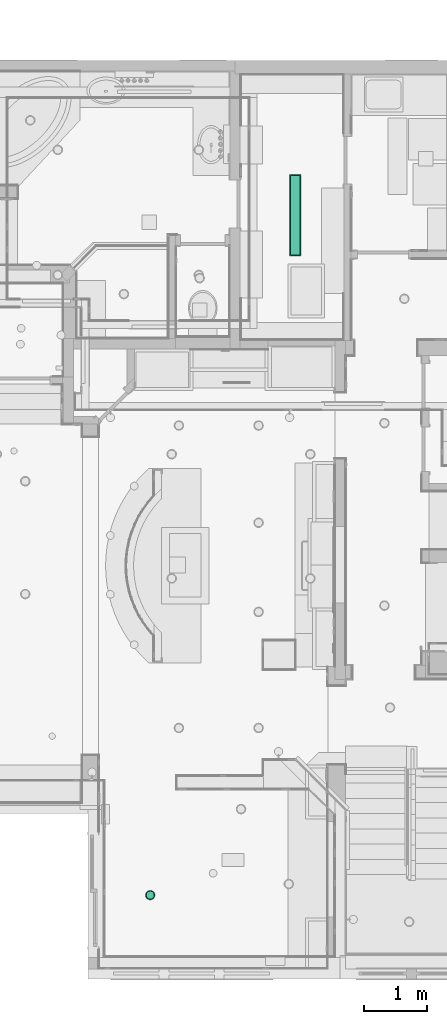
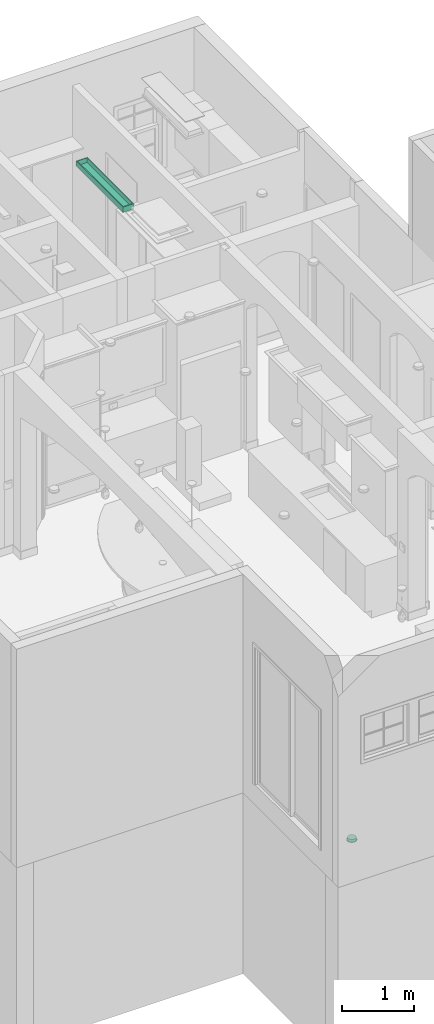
# One storey, part 37 of 81: 2 flow terminals.
"""IFC2X3 building model written with IfcOpenShell, lengths in feet."""

from ifc_helpers import new_model, entity, si_unit, converted_unit, derived_unit, direction, frame, origin, origin_2d_with_axis, place, context, subcontext, project, spatial, polyline, rectangle, outline, extrude, faceted_brep, source, transform, mapped, material, material_list, type_object, type_shapes, element, save


model = new_model("IFC2X3")

# Units and contexts
model_context = context("Model", 3, precision=0.0001, world=origin(), true_north=direction((6.12303176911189e-17, 1.0)))
body_context = subcontext(model_context, "Body", "Model", "MODEL_VIEW")
ifc_project = project(units=[converted_unit("LENGTHUNIT", "FOOT", entity("IfcRatioMeasure", 0.3048), si_unit("LENGTHUNIT", "METRE"), dimensions=[1, 0, 0, 0, 0, 0, 0]), converted_unit("AREAUNIT", "SQUARE FOOT", entity("IfcRatioMeasure", 0.09290304), si_unit("AREAUNIT", "SQUARE_METRE"), dimensions=[2, 0, 0, 0, 0, 0, 0]), converted_unit("VOLUMEUNIT", "CUBIC FOOT", entity("IfcRatioMeasure", 0.028316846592), si_unit("VOLUMEUNIT", "CUBIC_METRE"), dimensions=[3, 0, 0, 0, 0, 0, 0]), converted_unit("PLANEANGLEUNIT", "DEGREE", entity("IfcRatioMeasure", 0.0174532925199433), si_unit("PLANEANGLEUNIT", "RADIAN"), dimensions=[0, 0, 0, 0, 0, 0, 0]), si_unit("MASSUNIT", "GRAM", prefix="KILO"), derived_unit("MASSDENSITYUNIT", [(si_unit("MASSUNIT", "GRAM", prefix="KILO"), 1), (si_unit("LENGTHUNIT", "METRE"), -3)]), derived_unit("MOMENTOFINERTIAUNIT", [(si_unit("LENGTHUNIT", "METRE"), 4)]), si_unit("TIMEUNIT", "SECOND"), si_unit("FREQUENCYUNIT", "HERTZ"), si_unit("THERMODYNAMICTEMPERATUREUNIT", "DEGREE_CELSIUS"), derived_unit("THERMALTRANSMITTANCEUNIT", [(si_unit("MASSUNIT", "GRAM", prefix="KILO"), 1), (si_unit("THERMODYNAMICTEMPERATUREUNIT", "KELVIN"), -1), (si_unit("TIMEUNIT", "SECOND"), -3)]), derived_unit("VOLUMETRICFLOWRATEUNIT", [(si_unit("LENGTHUNIT", "METRE"), 3), (si_unit("TIMEUNIT", "SECOND"), -1)]), si_unit("ELECTRICCURRENTUNIT", "AMPERE"), si_unit("ELECTRICVOLTAGEUNIT", "VOLT"), si_unit("POWERUNIT", "WATT"), si_unit("FORCEUNIT", "NEWTON"), si_unit("ILLUMINANCEUNIT", "LUX"), si_unit("LUMINOUSFLUXUNIT", "LUMEN"), si_unit("LUMINOUSINTENSITYUNIT", "CANDELA"), derived_unit("USERDEFINED", [(si_unit("MASSUNIT", "GRAM", prefix="KILO"), -1), (si_unit("LENGTHUNIT", "METRE"), -2), (si_unit("TIMEUNIT", "SECOND"), 3), (si_unit("LUMINOUSFLUXUNIT", "LUMEN"), 1)]), derived_unit("LINEARVELOCITYUNIT", [(si_unit("LENGTHUNIT", "METRE"), 1), (si_unit("TIMEUNIT", "SECOND"), -1)]), si_unit("PRESSUREUNIT", "PASCAL"), derived_unit("USERDEFINED", [(si_unit("LENGTHUNIT", "METRE"), -2), (si_unit("MASSUNIT", "GRAM", prefix="KILO"), 1), (si_unit("TIMEUNIT", "SECOND"), -2)]), derived_unit("LINEARFORCEUNIT", [(si_unit("MASSUNIT", "GRAM", prefix="KILO"), 1), (si_unit("LENGTHUNIT", "METRE"), 1), (si_unit("TIMEUNIT", "SECOND"), -2), (si_unit("LENGTHUNIT", "METRE"), -1)]), derived_unit("PLANARFORCEUNIT", [(si_unit("MASSUNIT", "GRAM", prefix="KILO"), 1), (si_unit("LENGTHUNIT", "METRE"), 1), (si_unit("TIMEUNIT", "SECOND"), -2), (si_unit("LENGTHUNIT", "METRE"), -2)])], contexts=[model_context])

# Site, building, storey
site_placement = place(None, origin())
site = spatial("IfcSite", under=ifc_project, at=site_placement, Name="Default", CompositionType="ELEMENT")
building_placement = place(site_placement, origin())
building = spatial("IfcBuilding", under=site, at=building_placement, CompositionType="ELEMENT")
storey_placement = place(building_placement, origin())
storey = spatial("IfcBuildingStorey", under=building, at=storey_placement, Name="First floor", CompositionType="ELEMENT", Elevation=0.0)

# Flow terminals
ifc_material_1 = material(Name="Default New Material")
ifc_material_2 = material(Name="Glass, White, High Luminance")
ifc_material_list_1 = material_list([ifc_material_1, ifc_material_2])
ifc_material_list_2 = material_list([ifc_material_1, ifc_material_2])
light_fixture_type_1 = type_object("IfcLightFixtureType", Name="M_Recessed Lamp - Round - LED:Light 2", PredefinedType="NOTDEFINED", material=ifc_material_list_2)
shared_shape_1 = source(origin(), body_context, "Body", "Brep", [
    faceted_brep([(-0.124999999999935, 0.216506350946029, 0.0208333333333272), (-0.176776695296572, 0.176776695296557, 0.0208333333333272), (-0.0833333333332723, 0.144337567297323, 0.0208333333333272), (-0.0431365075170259, 0.160987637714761, 0.0208333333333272), (-0.0647047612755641, 0.241481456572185, 0.0208333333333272), (-0.117851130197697, 0.117851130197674, 0.0208333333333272), (-0.216506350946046, 0.12499999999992, 0.0208333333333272), (-0.144337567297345, 0.0833333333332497, 0.0208333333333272), (-0.160987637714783, 0.0431365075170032, 0.0208333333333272), (-0.241481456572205, 0.0647047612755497, 0.0208333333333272), (-0.166666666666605, 0.0, 0.0208333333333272), (-0.249999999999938, 0.0, 0.0208333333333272), (-0.160987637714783, -0.0431365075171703, 0.0208333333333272), (-0.241481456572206, -0.0647047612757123, 0.0208333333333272), (-0.144337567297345, -0.0833333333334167, 0.0208333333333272), (-0.216506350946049, -0.125000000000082, 0.0208333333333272), (-0.117851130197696, -0.117851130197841, 0.0208333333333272), (-0.176776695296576, -0.176776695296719, 0.0208333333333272), (-0.0833333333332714, -0.14433756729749, 0.0208333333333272), (-0.12499999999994, -0.216506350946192, 0.0208333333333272), (-0.0431365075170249, -0.160987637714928, 0.0208333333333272), (-0.0647047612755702, -0.24148145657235, 0.0208333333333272), (0.0, -0.16666666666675, 0.0208333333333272), (0.0, -0.250000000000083, 0.0208333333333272), (0.0431365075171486, -0.160987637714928, 0.0208333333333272), (0.0647047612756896, -0.241481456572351, 0.0208333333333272), (0.0833333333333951, -0.144337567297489, 0.0208333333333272), (0.12500000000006, -0.216506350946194, 0.0208333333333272), (0.11785113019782, -0.117851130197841, 0.0208333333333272), (0.176776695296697, -0.176776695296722, 0.0208333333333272), (0.144337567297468, -0.0833333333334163, 0.0208333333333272), (0.21650635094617, -0.125000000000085, 0.0208333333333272), (0.241481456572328, -0.0647047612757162, 0.0208333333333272), (0.160987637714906, -0.0431365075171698, 0.0208333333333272), (0.250000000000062, 0.0, 0.0208333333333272), (0.166666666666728, 0.0, 0.0208333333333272), (0.241481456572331, 0.06470476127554, 0.0208333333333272), (0.160987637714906, 0.0431365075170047, 0.0208333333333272), (0.216506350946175, 0.124999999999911, 0.0208333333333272), (0.144337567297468, 0.0833333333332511, 0.0208333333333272), (0.176776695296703, 0.176776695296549, 0.0208333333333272), (0.117851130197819, 0.117851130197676, 0.0208333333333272), (0.125000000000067, 0.216506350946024, 0.0208333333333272), (0.0833333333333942, 0.144337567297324, 0.0208333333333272), (0.0647047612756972, 0.241481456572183, 0.0208333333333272), (0.0431365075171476, 0.160987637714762, 0.0208333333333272), (0.0, 0.249999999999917, 0.0208333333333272), (0.0, 0.166666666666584, 0.0208333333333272), (-0.12499999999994, -0.216506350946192, 0.0), (-0.176776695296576, -0.176776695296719, 0.0), (-0.0833333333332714, -0.14433756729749, 0.0), (-0.0431365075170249, -0.160987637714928, 0.0), (-0.0647047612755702, -0.24148145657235, 0.0), (-0.117851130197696, -0.117851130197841, 0.0), (-0.216506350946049, -0.125000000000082, 0.0), (-0.144337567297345, -0.0833333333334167, 0.0), (-0.160987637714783, -0.0431365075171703, 0.0), (-0.241481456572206, -0.0647047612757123, 0.0), (-0.166666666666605, 0.0, 0.0), (-0.249999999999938, 0.0, 0.0), (-0.160987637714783, 0.0431365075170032, 0.0), (-0.241481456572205, 0.0647047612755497, 0.0), (-0.144337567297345, 0.0833333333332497, 0.0), (-0.216506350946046, 0.12499999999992, 0.0), (-0.117851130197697, 0.117851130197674, 0.0), (-0.176776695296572, 0.176776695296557, 0.0), (-0.0833333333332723, 0.144337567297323, 0.0), (-0.124999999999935, 0.216506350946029, 0.0), (-0.0431365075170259, 0.160987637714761, 0.0), (-0.0647047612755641, 0.241481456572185, 0.0), (0.0, 0.166666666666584, 0.0), (0.0, 0.249999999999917, 0.0), (0.0431365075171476, 0.160987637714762, 0.0), (0.0647047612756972, 0.241481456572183, 0.0), (0.0833333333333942, 0.144337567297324, 0.0), (0.125000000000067, 0.216506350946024, 0.0), (0.117851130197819, 0.117851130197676, 0.0), (0.176776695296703, 0.176776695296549, 0.0), (0.144337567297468, 0.0833333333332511, 0.0), (0.216506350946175, 0.124999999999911, 0.0), (0.241481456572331, 0.06470476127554, 0.0), (0.160987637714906, 0.0431365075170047, 0.0), (0.250000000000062, 0.0, 0.0), (0.166666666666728, 0.0, 0.0), (0.241481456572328, -0.0647047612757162, 0.0), (0.160987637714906, -0.0431365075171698, 0.0), (0.21650635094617, -0.125000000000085, 0.0), (0.144337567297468, -0.0833333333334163, 0.0), (0.176776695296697, -0.176776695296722, 0.0), (0.11785113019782, -0.117851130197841, 0.0), (0.12500000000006, -0.216506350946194, 0.0), (0.0833333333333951, -0.144337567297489, 0.0), (0.0647047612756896, -0.241481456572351, 0.0), (0.0431365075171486, -0.160987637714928, 0.0), (0.0, -0.250000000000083, 0.0), (0.0, -0.16666666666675, 0.0)], [[[0, 1, 2]], [[0, 2, 3]], [[3, 4, 0]], [[2, 1, 5]], [[6, 5, 1]], [[7, 5, 6]], [[8, 7, 6]], [[8, 6, 9]], [[8, 9, 10]], [[10, 9, 11]], [[12, 10, 11]], [[12, 11, 13]], [[14, 12, 13]], [[14, 13, 15]], [[16, 14, 15]], [[15, 17, 16]], [[17, 18, 16]], [[18, 17, 19]], [[18, 19, 20]], [[21, 20, 19]], [[20, 21, 22]], [[22, 21, 23]], [[23, 24, 22]], [[24, 23, 25]], [[24, 25, 26]], [[27, 26, 25]], [[27, 28, 26]], [[27, 29, 28]], [[30, 28, 29]], [[31, 30, 29]], [[32, 30, 31]], [[33, 30, 32]], [[33, 32, 34]], [[34, 35, 33]], [[36, 35, 34]], [[36, 37, 35]], [[37, 36, 38]], [[39, 37, 38]], [[39, 38, 40]], [[39, 40, 41]], [[40, 42, 41]], [[41, 42, 43]], [[43, 42, 44]], [[44, 45, 43]], [[46, 45, 44]], [[4, 47, 46]], [[45, 46, 47]], [[4, 3, 47]], [[48, 49, 50]], [[48, 50, 51]], [[51, 52, 48]], [[50, 49, 53]], [[54, 53, 49]], [[55, 53, 54]], [[56, 55, 54]], [[56, 54, 57]], [[56, 57, 58]], [[58, 57, 59]], [[60, 58, 59]], [[60, 59, 61]], [[62, 60, 61]], [[62, 61, 63]], [[64, 62, 63]], [[63, 65, 64]], [[65, 66, 64]], [[66, 65, 67]], [[66, 67, 68]], [[69, 68, 67]], [[68, 69, 70]], [[70, 69, 71]], [[71, 72, 70]], [[72, 71, 73]], [[72, 73, 74]], [[75, 74, 73]], [[75, 76, 74]], [[75, 77, 76]], [[78, 76, 77]], [[79, 78, 77]], [[80, 78, 79]], [[81, 78, 80]], [[81, 80, 82]], [[82, 83, 81]], [[84, 83, 82]], [[84, 85, 83]], [[85, 84, 86]], [[87, 85, 86]], [[87, 86, 88]], [[87, 88, 89]], [[88, 90, 89]], [[89, 90, 91]], [[91, 90, 92]], [[92, 93, 91]], [[94, 93, 92]], [[52, 95, 94]], [[93, 94, 95]], [[52, 51, 95]], [[10, 58, 60, 8]], [[8, 60, 62, 7]], [[2, 5, 64, 66]], [[62, 64, 5, 7]], [[3, 2, 66, 68]], [[70, 47, 3, 68]], [[45, 72, 74, 43]], [[43, 74, 76, 41]], [[37, 39, 78, 81]], [[76, 78, 39, 41]], [[35, 37, 81, 83]], [[45, 47, 70, 72]], [[35, 83, 85, 33]], [[33, 85, 87, 30]], [[26, 28, 89, 91]], [[87, 89, 28, 30]], [[24, 26, 91, 93]], [[95, 22, 24, 93]], [[20, 51, 50, 18]], [[18, 50, 53, 16]], [[12, 14, 55, 56]], [[53, 55, 14, 16]], [[10, 12, 56, 58]], [[20, 22, 95, 51]], [[57, 13, 11, 59]], [[54, 15, 13, 57]], [[19, 17, 49, 48]], [[54, 49, 17, 15]], [[21, 19, 48, 52]], [[23, 21, 52, 94]], [[92, 25, 23, 94]], [[90, 27, 25, 92]], [[31, 29, 88, 86]], [[90, 88, 29, 27]], [[32, 31, 86, 84]], [[34, 32, 84, 82]], [[80, 36, 34, 82]], [[79, 38, 36, 80]], [[42, 40, 77, 75]], [[79, 77, 40, 38]], [[44, 42, 75, 73]], [[46, 44, 73, 71]], [[69, 4, 46, 71]], [[67, 0, 4, 69]], [[6, 1, 65, 63]], [[67, 65, 1, 0]], [[9, 6, 63, 61]], [[11, 9, 61, 59]]]),
    faceted_brep([(0.0431365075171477, -0.160987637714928, 0.0208333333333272), (0.0833333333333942, -0.14433756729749, 0.0208333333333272), (0.117851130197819, -0.117851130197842, 0.0208333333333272), (0.144337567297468, -0.0833333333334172, 0.0208333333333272), (0.160987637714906, -0.0431365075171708, 0.0208333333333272), (0.166666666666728, 0.0, 0.0208333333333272), (0.160987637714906, 0.0431365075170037, 0.0208333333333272), (0.144337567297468, 0.0833333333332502, 0.0208333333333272), (0.11785113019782, 0.117851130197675, 0.0208333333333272), (0.0833333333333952, 0.144337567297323, 0.0208333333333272), (0.0431365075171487, 0.160987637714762, 0.0208333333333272), (0.0, 0.166666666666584, 0.0208333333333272), (-0.0431365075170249, 0.160987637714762, 0.0208333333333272), (-0.0833333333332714, 0.144337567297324, 0.0208333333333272), (-0.117851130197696, 0.117851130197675, 0.0208333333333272), (-0.144337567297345, 0.0833333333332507, 0.0208333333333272), (-0.160987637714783, 0.0431365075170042, 0.0208333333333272), (-0.166666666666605, 0.0, 0.0208333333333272), (-0.160987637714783, -0.0431365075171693, 0.0208333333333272), (-0.144337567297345, -0.0833333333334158, 0.0208333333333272), (-0.117851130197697, -0.117851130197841, 0.0208333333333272), (-0.0833333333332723, -0.144337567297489, 0.0208333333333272), (-0.0431365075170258, -0.160987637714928, 0.0208333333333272), (0.0, -0.16666666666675, 0.0208333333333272), (0.0431365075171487, 0.160987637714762, 0.0), (0.0833333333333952, 0.144337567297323, 0.0), (0.11785113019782, 0.117851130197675, 0.0), (0.144337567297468, 0.0833333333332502, 0.0), (0.160987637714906, 0.0431365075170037, 0.0), (0.166666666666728, 0.0, 0.0), (0.160987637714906, -0.0431365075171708, 0.0), (0.144337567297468, -0.0833333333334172, 0.0), (0.117851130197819, -0.117851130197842, 0.0), (0.0833333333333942, -0.14433756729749, 0.0), (0.0431365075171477, -0.160987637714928, 0.0), (0.0, -0.16666666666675, 0.0), (-0.0431365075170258, -0.160987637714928, 0.0), (-0.0833333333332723, -0.144337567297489, 0.0), (-0.117851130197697, -0.117851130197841, 0.0), (-0.144337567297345, -0.0833333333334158, 0.0), (-0.160987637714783, -0.0431365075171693, 0.0), (-0.166666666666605, 0.0, 0.0), (-0.160987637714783, 0.0431365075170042, 0.0), (-0.144337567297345, 0.0833333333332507, 0.0), (-0.117851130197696, 0.117851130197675, 0.0), (-0.0833333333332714, 0.144337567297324, 0.0), (-0.0431365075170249, 0.160987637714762, 0.0), (0.0, 0.166666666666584, 0.0)], [[[0, 1, 2, 3, 4, 5, 6, 7, 8, 9, 10, 11, 12, 13, 14, 15, 16, 17, 18, 19, 20, 21, 22, 23]], [[24, 25, 26, 27, 28, 29, 30, 31, 32, 33, 34, 35, 36, 37, 38, 39, 40, 41, 42, 43, 44, 45, 46, 47]], [[40, 18, 17, 41]], [[39, 19, 18, 40]], [[21, 20, 38, 37]], [[39, 38, 20, 19]], [[22, 21, 37, 36]], [[23, 22, 36, 35]], [[34, 0, 23, 35]], [[33, 1, 0, 34]], [[3, 2, 32, 31]], [[33, 32, 2, 1]], [[4, 3, 31, 30]], [[5, 4, 30, 29]], [[28, 6, 5, 29]], [[27, 7, 6, 28]], [[9, 8, 26, 25]], [[27, 26, 8, 7]], [[10, 9, 25, 24]], [[11, 10, 24, 47]], [[46, 12, 11, 47]], [[45, 13, 12, 46]], [[15, 14, 44, 43]], [[45, 44, 14, 13]], [[16, 15, 43, 42]], [[17, 16, 42, 41]]]),
    faceted_brep([(0.0, -0.16666666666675, -0.104166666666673), (0.0431365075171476, -0.160987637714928, -0.104166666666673), (0.0833333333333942, -0.14433756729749, -0.104166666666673), (0.117851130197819, -0.117851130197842, -0.104166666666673), (0.144337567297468, -0.0833333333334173, -0.104166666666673), (0.160987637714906, -0.0431365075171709, -0.104166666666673), (0.166666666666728, 0.0, -0.104166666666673), (0.160987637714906, 0.0431365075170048, -0.104166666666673), (0.144337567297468, 0.0833333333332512, -0.104166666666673), (0.117851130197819, 0.117851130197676, -0.104166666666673), (0.0833333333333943, 0.144337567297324, -0.104166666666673), (0.0431365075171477, 0.160987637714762, -0.104166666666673), (0.0, 0.166666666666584, -0.104166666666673), (-0.0431365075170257, 0.160987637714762, -0.104166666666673), (-0.0833333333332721, 0.144337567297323, -0.104166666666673), (-0.117851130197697, 0.117851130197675, -0.104166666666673), (-0.144337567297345, 0.0833333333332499, -0.104166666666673), (-0.160987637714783, 0.0431365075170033, -0.104166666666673), (-0.166666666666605, 0.0, -0.104166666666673), (-0.160987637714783, -0.0431365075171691, -0.104166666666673), (-0.144337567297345, -0.0833333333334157, -0.104166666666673), (-0.117851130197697, -0.11785113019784, -0.104166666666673), (-0.0833333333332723, -0.144337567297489, -0.104166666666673), (-0.0431365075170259, -0.160987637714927, -0.104166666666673), (0.0, 0.20833333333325, -0.125000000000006), (0.0539206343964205, 0.201234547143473, -0.125000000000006), (0.104166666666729, 0.180421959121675, -0.125000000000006), (0.147313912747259, 0.147313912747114, -0.125000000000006), (0.18042195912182, 0.104166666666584, -0.125000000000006), (0.201234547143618, 0.0539206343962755, -0.125000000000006), (0.208333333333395, 0.0, -0.125000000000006), (0.201234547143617, -0.0539206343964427, -0.125000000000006), (0.180421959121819, -0.104166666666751, -0.125000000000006), (0.147313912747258, -0.147313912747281, -0.125000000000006), (0.104166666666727, -0.180421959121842, -0.125000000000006), (0.0539206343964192, -0.201234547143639, -0.125000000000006), (0.0, -0.208333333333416, -0.125000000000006), (-0.0539206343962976, -0.201234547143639, -0.125000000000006), (-0.104166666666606, -0.180421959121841, -0.125000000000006), (-0.147313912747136, -0.14731391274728, -0.125000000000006), (-0.180421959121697, -0.104166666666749, -0.125000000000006), (-0.201234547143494, -0.0539206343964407, -0.125000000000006), (-0.208333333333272, 0.0, -0.125000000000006), (-0.201234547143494, 0.0539206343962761, -0.125000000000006), (-0.180421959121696, 0.104166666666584, -0.125000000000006), (-0.147313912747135, 0.147313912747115, -0.125000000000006), (-0.104166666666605, 0.180421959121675, -0.125000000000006), (-0.0539206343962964, 0.201234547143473, -0.125000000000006), (-0.201234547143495, -0.0539206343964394, -0.104166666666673), (-0.201234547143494, -0.0539206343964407, 0.0), (-0.208333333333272, 0.0, 0.0), (-0.208333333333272, 0.0, -0.104166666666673), (-0.180421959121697, -0.104166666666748, -0.104166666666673), (-0.180421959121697, -0.104166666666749, 0.0), (-0.104166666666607, -0.18042195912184, -0.104166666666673), (-0.104166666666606, -0.180421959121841, 0.0), (-0.147313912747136, -0.14731391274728, 0.0), (-0.147313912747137, -0.147313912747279, -0.104166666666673), (-0.0539206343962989, -0.201234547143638, -0.104166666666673), (-0.0539206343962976, -0.201234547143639, 0.0), (0.0, -0.208333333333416, -0.104166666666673), (0.0, -0.208333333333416, 0.0), (0.053920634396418, -0.201234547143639, -0.104166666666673), (0.0539206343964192, -0.201234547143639, 0.0), (0.104166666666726, -0.180421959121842, -0.104166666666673), (0.104166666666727, -0.180421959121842, 0.0), (0.180421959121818, -0.104166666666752, -0.104166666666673), (0.180421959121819, -0.104166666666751, 0.0), (0.147313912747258, -0.147313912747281, 0.0), (0.147313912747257, -0.147313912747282, -0.104166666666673), (0.201234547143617, -0.0539206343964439, -0.104166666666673), (0.201234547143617, -0.0539206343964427, 0.0), (0.208333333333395, 0.0, -0.104166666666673), (0.208333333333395, 0.0, 0.0), (0.201234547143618, 0.0539206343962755, -0.104166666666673), (0.201234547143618, 0.0539206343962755, 0.0), (0.18042195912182, 0.104166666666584, -0.104166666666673), (0.18042195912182, 0.104166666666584, 0.0), (0.104166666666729, 0.180421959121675, -0.104166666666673), (0.104166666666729, 0.180421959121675, 0.0), (0.147313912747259, 0.147313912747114, 0.0), (0.147313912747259, 0.147313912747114, -0.104166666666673), (0.0539206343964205, 0.201234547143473, -0.104166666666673), (0.0539206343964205, 0.201234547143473, 0.0), (0.0, 0.20833333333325, -0.104166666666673), (0.0, 0.20833333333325, 0.0), (-0.0539206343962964, 0.201234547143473, -0.104166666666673), (-0.0539206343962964, 0.201234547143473, 0.0), (-0.104166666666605, 0.180421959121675, -0.104166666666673), (-0.104166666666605, 0.180421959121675, 0.0), (-0.180421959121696, 0.104166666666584, -0.104166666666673), (-0.180421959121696, 0.104166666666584, 0.0), (-0.147313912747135, 0.147313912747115, 0.0), (-0.147313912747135, 0.147313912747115, -0.104166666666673), (-0.201234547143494, 0.0539206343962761, -0.104166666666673), (-0.201234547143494, 0.0539206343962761, 0.0), (-0.0833333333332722, 0.144337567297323, 0.0), (-0.0431365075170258, 0.160987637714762, 0.0), (-0.117851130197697, 0.117851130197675, 0.0), (-0.144337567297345, 0.0833333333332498, 0.0), (-0.160987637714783, 0.0431365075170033, 0.0), (-0.166666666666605, 0.0, 0.0), (-0.160987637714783, -0.0431365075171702, 0.0), (-0.144337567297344, -0.0833333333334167, 0.0), (-0.117851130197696, -0.117851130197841, 0.0), (-0.0833333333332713, -0.14433756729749, 0.0), (-0.0431365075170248, -0.160987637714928, 0.0), (0.0, -0.16666666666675, 0.0), (0.0431365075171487, -0.160987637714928, 0.0), (0.0833333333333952, -0.144337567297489, 0.0), (0.11785113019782, -0.117851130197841, 0.0), (0.144337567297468, -0.0833333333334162, 0.0), (0.160987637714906, -0.0431365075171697, 0.0), (0.166666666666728, 0.0, 0.0), (0.160987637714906, 0.0431365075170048, 0.0), (0.144337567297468, 0.0833333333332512, 0.0), (0.117851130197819, 0.117851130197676, 0.0), (0.0833333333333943, 0.144337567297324, 0.0), (0.0431365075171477, 0.160987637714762, 0.0), (0.0, 0.166666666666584, 0.0)], [[[0, 1, 2, 3, 4, 5, 6, 7, 8, 9, 10, 11, 12, 13, 14, 15, 16, 17, 18, 19, 20, 21, 22, 23]], [[24, 25, 26, 27, 28, 29, 30, 31, 32, 33, 34, 35, 36, 37, 38, 39, 40, 41, 42, 43, 44, 45, 46, 47]], [[41, 48, 49, 50, 51, 42]], [[40, 52, 53, 49, 48, 41]], [[54, 55, 56, 57, 39, 38]], [[40, 39, 57, 56, 53, 52]], [[58, 59, 55, 54, 38, 37]], [[60, 61, 59, 58, 37, 36]], [[35, 62, 63, 61, 60, 36]], [[34, 64, 65, 63, 62, 35]], [[66, 67, 68, 69, 33, 32]], [[34, 33, 69, 68, 65, 64]], [[70, 71, 67, 66, 32, 31]], [[72, 73, 71, 70, 31, 30]], [[29, 74, 75, 73, 72, 30]], [[28, 76, 77, 75, 74, 29]], [[78, 79, 80, 81, 27, 26]], [[28, 27, 81, 80, 77, 76]], [[82, 83, 79, 78, 26, 25]], [[84, 85, 83, 82, 25, 24]], [[47, 86, 87, 85, 84, 24]], [[46, 88, 89, 87, 86, 47]], [[90, 91, 92, 93, 45, 44]], [[46, 45, 93, 92, 89, 88]], [[94, 95, 91, 90, 44, 43]], [[51, 50, 95, 94, 43, 42]], [[89, 92, 96]], [[89, 96, 97]], [[97, 87, 89]], [[96, 92, 98]], [[91, 98, 92]], [[99, 98, 91]], [[100, 99, 91]], [[100, 91, 95]], [[100, 95, 101]], [[101, 95, 50]], [[102, 101, 50]], [[102, 50, 49]], [[103, 102, 49]], [[103, 49, 53]], [[104, 103, 53]], [[53, 56, 104]], [[56, 105, 104]], [[105, 56, 55]], [[105, 55, 106]], [[59, 106, 55]], [[106, 59, 107]], [[107, 59, 61]], [[61, 108, 107]], [[108, 61, 63]], [[108, 63, 109]], [[65, 109, 63]], [[65, 110, 109]], [[65, 68, 110]], [[111, 110, 68]], [[67, 111, 68]], [[71, 111, 67]], [[112, 111, 71]], [[112, 71, 73]], [[73, 113, 112]], [[75, 113, 73]], [[75, 114, 113]], [[114, 75, 77]], [[115, 114, 77]], [[115, 77, 80]], [[115, 80, 116]], [[80, 79, 116]], [[116, 79, 117]], [[117, 79, 83]], [[83, 118, 117]], [[85, 118, 83]], [[87, 119, 85]], [[85, 119, 118]], [[87, 97, 119]], [[113, 6, 5, 112]], [[112, 5, 4, 111]], [[109, 110, 3, 2]], [[4, 3, 110, 111]], [[108, 109, 2, 1]], [[0, 107, 108, 1]], [[104, 105, 22, 21]], [[23, 22, 105, 106]], [[102, 103, 20, 19]], [[104, 21, 20, 103]], [[102, 19, 18, 101]], [[0, 23, 106, 107]], [[101, 18, 17, 100]], [[100, 17, 16, 99]], [[96, 98, 15, 14]], [[16, 15, 98, 99]], [[97, 96, 14, 13]], [[12, 119, 97, 13]], [[118, 11, 10, 117]], [[117, 10, 9, 116]], [[114, 115, 8, 7]], [[9, 8, 115, 116]], [[113, 114, 7, 6]], [[118, 119, 12, 11]]]),
])
type_shapes(light_fixture_type_1, [shared_shape_1])
flow_terminal_1_placement = place(storey_placement, frame((3.25005776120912, 4.39583333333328, 8.41666666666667), z_axis=(0.0, 0.0, -1.0), x_axis=(1.0, 0.0, 0.0)))
element("IfcFlowTerminal", 1, at=flow_terminal_1_placement, inside=storey, type_object=light_fixture_type_1, material=ifc_material_list_1, Name="M_Recessed Lamp - Round - LED:Light 2", ObjectType="M_Recessed Lamp - Round - LED:Light 2", context=body_context, shape_type="MappedRepresentation", body=[
    mapped(shared_shape_1, transform((0.0, 0.0, 0.0), scale=1.0)),
])
ifc_material_list_3 = material_list([ifc_material_1, ifc_material_1])
light_fixture_type_2 = type_object("IfcLightFixtureType", Name="Lighting_Fixtures_Ceiling_Linear:Light 11", PredefinedType="NOTDEFINED", material=ifc_material_list_3)
shared_shape_2 = source(origin(), body_context, "Body", "SweptSolid", [
    extrude(outline(polyline([(-2.125, -0.291666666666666), (2.125, -0.291666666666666), (2.125, 0.291666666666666), (-2.125, 0.291666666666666), (-2.125, -0.291666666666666)]), holes=[polyline([(-2.0833333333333, -0.249999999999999), (-2.0833333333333, 0.249999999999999), (2.08333333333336, 0.249999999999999), (2.08333333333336, -0.249999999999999), (-2.0833333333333, -0.249999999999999)])]), frame((0.0, 0.0, 7.70833333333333), z_axis=(0.0, 0.0, 1.0), x_axis=(-1.0, 0.0, 0.0)), (0.0, 0.0, 1.0), 0.291666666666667),
    extrude(rectangle(XDim=4.16666666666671, YDim=0.500000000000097, at=origin_2d_with_axis()), frame((0.0, 0.0, 7.72916666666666), z_axis=(0.0, 0.0, 1.0), x_axis=(-1.0, 0.0, 0.0)), (0.0, 0.0, 1.0), 0.0208333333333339),
])
type_shapes(light_fixture_type_2, [shared_shape_2])
flow_terminal_2_placement = place(storey_placement, frame((10.8333333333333, 39.9579881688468, 12.6666666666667), z_axis=(0.0, 0.0, 1.0), x_axis=(0.0, 1.0, 0.0)))
element("IfcFlowTerminal", 2, at=flow_terminal_2_placement, inside=storey, type_object=light_fixture_type_2, material=ifc_material_1, Name="Lighting_Fixtures_Ceiling_Linear:Light 11", ObjectType="Lighting_Fixtures_Ceiling_Linear:Light 11", context=body_context, shape_type="MappedRepresentation", body=[
    mapped(shared_shape_2, transform((0.0, 0.0, 0.0), scale=1.0)),
])

save(model, "model.ifc")
